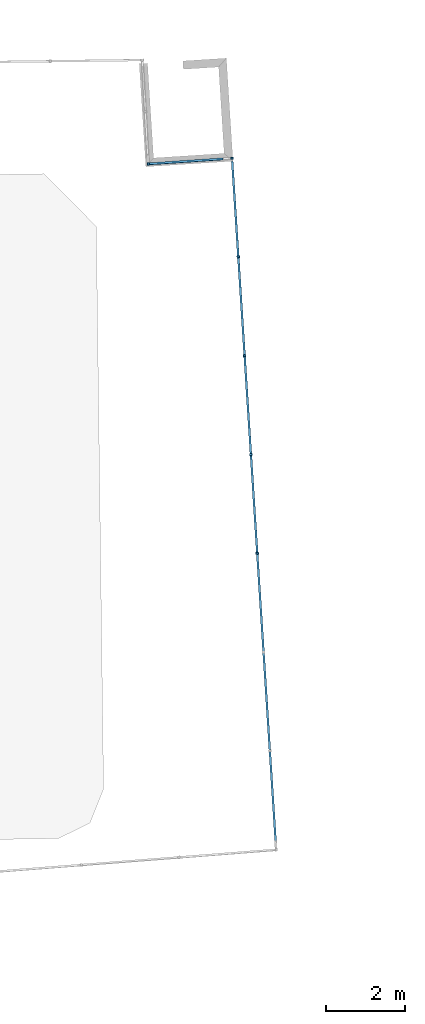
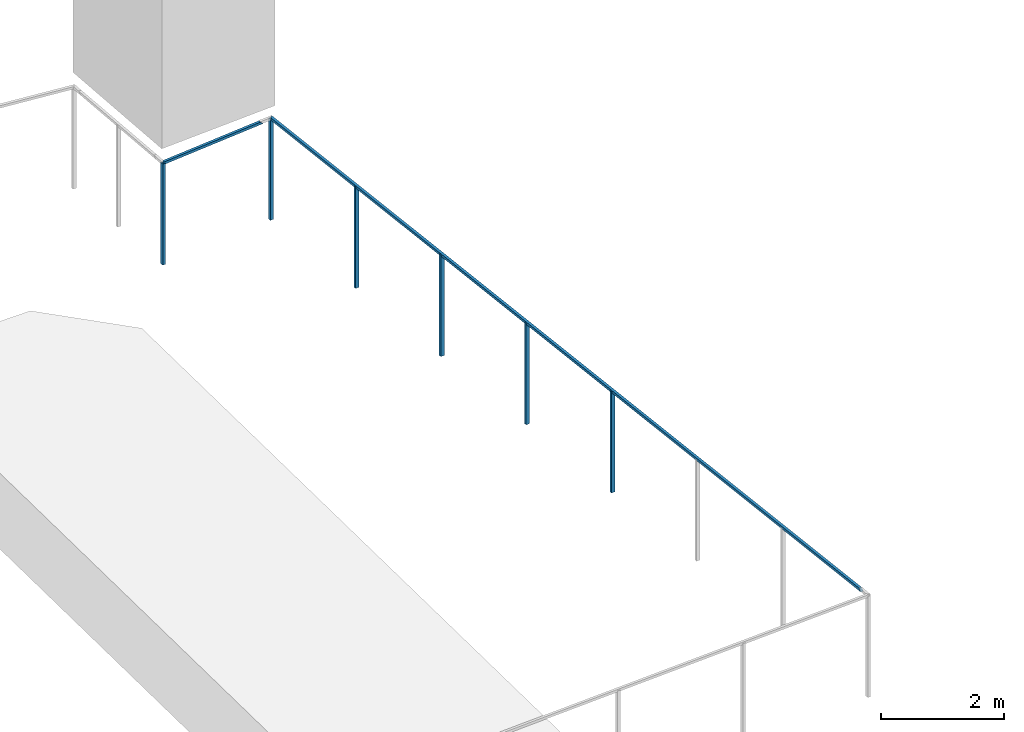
# One storey, part 75 of 91: 8 building element parts, 1 element without a shape of its own.
"""IFC2X3 building model written with IfcOpenShell, lengths in metres."""

from ifc_helpers import new_model, entity, si_unit, converted_unit, derived_unit, money_unit, direction, frame, origin_with_axes, place, context, subcontext, project, spatial, faceted_brep, material, type_object, element, aggregate, save


model = new_model("IFC2X3")

# Units and contexts
model_context = context("Model", 3, precision=1e-05, world=origin_with_axes(), true_north=direction((0.0, 1.0)))
body_context = subcontext(model_context, "Body", "Model", "MODEL_VIEW")
ifc_project = project(units=[si_unit("LENGTHUNIT", "METRE"), si_unit("AREAUNIT", "SQUARE_METRE"), si_unit("VOLUMEUNIT", "CUBIC_METRE"), converted_unit("PLANEANGLEUNIT", "DEGREE", entity("IfcPlaneAngleMeasure", 0.0174532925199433), si_unit("PLANEANGLEUNIT", "RADIAN"), dimensions=[0, 0, 0, 0, 0, 0, 0]), money_unit("EUR"), converted_unit("TIMEUNIT", "Year", entity("IfcTimeMeasure", 31557600.0), si_unit("TIMEUNIT", "SECOND"), dimensions=[0, 0, 1, 0, 0, 0, 0]), si_unit("MASSUNIT", "GRAM", prefix="KILO"), si_unit("THERMODYNAMICTEMPERATUREUNIT", "DEGREE_CELSIUS"), si_unit("LUMINOUSINTENSITYUNIT", "LUMEN"), si_unit("ENERGYUNIT", "JOULE", prefix="MEGA"), derived_unit("THERMALCONDUCTANCEUNIT", [(si_unit("POWERUNIT", "WATT"), 1), (si_unit("LENGTHUNIT", "METRE"), -1), (si_unit("THERMODYNAMICTEMPERATUREUNIT", "KELVIN"), -1)]), derived_unit("SPECIFICHEATCAPACITYUNIT", [(si_unit("ENERGYUNIT", "JOULE"), 1), (si_unit("MASSUNIT", "GRAM", prefix="KILO"), -1), (si_unit("THERMODYNAMICTEMPERATUREUNIT", "KELVIN"), -1)]), derived_unit("MASSDENSITYUNIT", [(si_unit("MASSUNIT", "GRAM", prefix="KILO"), 1), (si_unit("VOLUMEUNIT", "CUBIC_METRE"), -1)])], contexts=[model_context])

# Site, building, storey
site_placement = place(None, origin_with_axes())
site = spatial("IfcSite", under=ifc_project, at=site_placement, Name="Site", CompositionType="ELEMENT")
building_placement = place(site_placement, origin_with_axes())
building = spatial("IfcBuilding", under=site, at=building_placement, Name="Bâtiment", CompositionType="ELEMENT")
storey_placement = place(building_placement, origin_with_axes())
storey = spatial("IfcBuildingStorey", under=building, at=storey_placement, Name="RDC", CompositionType="ELEMENT", Elevation=0.0)

# Proxy, building element parts
building_element_proxy_type = type_object("IfcBuildingElementProxyType", Name="Type de garde-corps", PredefinedType="NOTDEFINED")
proxy_placement = place(storey_placement, frame((79.63337255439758, 3.614023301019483, -2.37161404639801), z_axis=(0.0, 0.0, 1.0), x_axis=(1.0, 0.0, 0.0)))
proxy = element("IfcBuildingElementProxy", 1, at=proxy_placement, inside=storey, type_object=building_element_proxy_type, Name="RAMPE-004")
ifc_material = material(Name="Acier Galva")
building_element_part_1_placement = place(proxy_placement, origin_with_axes())
building_element_part_1 = element("IfcBuildingElementPart", 2, at=building_element_part_1_placement, material=ifc_material, Name="Acier Galva", context=body_context, shape_type="Brep", body=[
    faceted_brep([(22.31019136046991, 1.18038404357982, 0.09343169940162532), (22.24432690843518, 1.176156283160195, 0.09246910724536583), (22.24432626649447, 1.17616630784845, 2.094185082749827), (22.31337902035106, 1.130485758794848, 0.09447525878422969), (22.24751456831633, 1.126257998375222, 0.0935126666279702), (22.24751392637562, 1.126268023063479, 2.094185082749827), (22.31019200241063, 1.180374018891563, 2.094185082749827), (22.31337966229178, 1.130475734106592, 2.094185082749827)], [[[0, 1, 2]], [[0, 3, 4, 1]], [[1, 4, 5, 2]], [[0, 2, 6]], [[3, 0, 6, 7]], [[4, 3, 7]], [[4, 7, 5]], [[6, 2, 5, 7]]]),
])
building_element_part_2_placement = place(proxy_placement, origin_with_axes())
building_element_part_2 = element("IfcBuildingElementPart", 3, at=building_element_part_2_placement, material=ifc_material, Name="Acier Galva", context=body_context, shape_type="Brep", body=[
    faceted_brep([(20.14576103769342, 1.042390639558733, 0.03103039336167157), (20.15020078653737, 0.9765401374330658, 0.03143081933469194), (20.15020368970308, 0.9765403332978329, 2.031177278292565), (20.19564748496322, 1.045758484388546, 0.03175706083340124), (20.20008723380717, 0.9799079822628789, 0.03215748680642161), (20.20009013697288, 0.979908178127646, 2.031177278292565), (20.14575813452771, 1.042390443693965, 2.031177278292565), (20.19564458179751, 1.045758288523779, 2.031177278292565)], [[[0, 1, 2]], [[0, 3, 4, 1]], [[1, 4, 5, 2]], [[0, 2, 6]], [[3, 0, 6, 7]], [[4, 3, 7]], [[4, 7, 5]], [[6, 2, 5, 7]]]),
])
building_element_part_3_placement = place(proxy_placement, origin_with_axes())
building_element_part_3 = element("IfcBuildingElementPart", 4, at=building_element_part_3_placement, material=ifc_material, Name="Acier Galva", context=body_context, shape_type="Brep", body=[
    faceted_brep([(23.4017373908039, -16.03170151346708, 2.840056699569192), (23.40492505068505, -16.08159979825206, 2.792105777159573), (22.30273777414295, 1.17946466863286, 2.069190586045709), (23.35183910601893, -16.03488917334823, 2.840056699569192), (23.35502676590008, -16.08478745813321, 2.792105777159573), (22.25608264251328, 1.126201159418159, 2.069190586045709), (22.30162328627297, 1.180440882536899, 2.119179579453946), (22.25496815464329, 1.127177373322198, 2.119179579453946)], [[[0, 1, 2]], [[0, 3, 4, 1]], [[1, 5, 2]], [[0, 2, 6]], [[3, 0, 6]], [[4, 3, 7]], [[1, 4, 5]], [[6, 2, 5, 7]], [[3, 6, 7]], [[4, 7, 5]]]),
])
building_element_part_4_placement = place(proxy_placement, origin_with_axes())
building_element_part_4 = element("IfcBuildingElementPart", 5, at=building_element_part_4_placement, material=ifc_material, Name="Acier Galva", context=body_context, shape_type="Brep", body=[
    faceted_brep([(22.94578043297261, -8.76885949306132, 0.5104344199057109), (22.87991469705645, -8.773067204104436, 0.5104344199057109), (22.87991469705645, -8.773067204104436, 2.510434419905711), (22.94578043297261, -8.76885949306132, 2.510434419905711), (22.94896809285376, -8.818757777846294, 0.512527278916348), (22.8831023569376, -8.822965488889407, 0.512527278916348), (22.8831023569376, -8.822965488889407, 2.512527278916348), (22.94896809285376, -8.818757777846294, 2.512527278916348)], [[[0, 1, 2, 3]], [[0, 4, 5, 1]], [[1, 5, 6, 2]], [[3, 2, 6, 7]], [[4, 0, 3, 7]], [[5, 4, 7, 6]]]),
])
building_element_part_5_placement = place(proxy_placement, origin_with_axes())
building_element_part_5 = element("IfcBuildingElementPart", 6, at=building_element_part_5_placement, material=ifc_material, Name="Acier Galva", context=body_context, shape_type="Brep", body=[
    faceted_brep([(22.78688332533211, -6.2815511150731, 0.4061104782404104), (22.72101758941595, -6.285758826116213, 0.4061104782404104), (22.72101758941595, -6.285758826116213, 2.40611047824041), (22.78688332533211, -6.2815511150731, 2.40611047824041), (22.79007098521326, -6.331449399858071, 0.4082033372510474), (22.7242052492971, -6.335657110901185, 0.4082033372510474), (22.7242052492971, -6.335657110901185, 2.408203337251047), (22.79007098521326, -6.331449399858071, 2.408203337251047)], [[[0, 1, 2, 3]], [[0, 4, 5, 1]], [[1, 5, 6, 2]], [[3, 2, 6, 7]], [[4, 0, 3, 7]], [[5, 4, 7, 6]]]),
])
building_element_part_6_placement = place(proxy_placement, origin_with_axes())
building_element_part_6 = element("IfcBuildingElementPart", 7, at=building_element_part_6_placement, material=ifc_material, Name="Acier Galva", context=body_context, shape_type="Brep", body=[
    faceted_brep([(22.62798621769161, -3.794242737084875, 0.3017865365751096), (22.56212048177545, -3.798450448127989, 0.3017865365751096), (22.56212048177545, -3.798450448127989, 2.30178653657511), (22.62798621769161, -3.794242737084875, 2.30178653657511), (22.63117387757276, -3.844141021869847, 0.3038793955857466), (22.5653081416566, -3.84834873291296, 0.3038793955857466), (22.5653081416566, -3.84834873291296, 2.303879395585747), (22.63117387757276, -3.844141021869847, 2.303879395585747)], [[[0, 1, 2, 3]], [[0, 4, 5, 1]], [[1, 5, 6, 2]], [[3, 2, 6, 7]], [[4, 0, 3, 7]], [[5, 4, 7, 6]]]),
])
building_element_part_7_placement = place(proxy_placement, origin_with_axes())
building_element_part_7 = element("IfcBuildingElementPart", 8, at=building_element_part_7_placement, material=ifc_material, Name="Acier Galva", context=body_context, shape_type="Brep", body=[
    faceted_brep([(22.46908911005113, -1.306934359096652, 0.1974625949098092), (22.40322337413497, -1.311142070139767, 0.1974625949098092), (22.40322337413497, -1.311142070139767, 2.197462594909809), (22.46908911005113, -1.306934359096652, 2.197462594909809), (22.47227676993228, -1.356832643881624, 0.1995554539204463), (22.40641103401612, -1.361040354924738, 0.1995554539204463), (22.40641103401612, -1.361040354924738, 2.199555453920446), (22.47227676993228, -1.356832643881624, 2.199555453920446)], [[[0, 1, 2, 3]], [[0, 4, 5, 1]], [[1, 5, 6, 2]], [[3, 2, 6, 7]], [[4, 0, 3, 7]], [[5, 4, 7, 6]]]),
])
building_element_part_8_placement = place(proxy_placement, origin_with_axes())
building_element_part_8 = element("IfcBuildingElementPart", 9, at=building_element_part_8_placement, material=ifc_material, Name="Acier Galva", context=body_context, shape_type="Brep", body=[
    faceted_brep([(22.05268002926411, 1.163108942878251, 2.111205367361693), (22.10256647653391, 1.166476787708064, 2.062642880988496), (20.19678710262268, 1.037437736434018, 2.006179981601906), (22.05604787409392, 1.113222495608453, 2.111205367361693), (22.10593432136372, 1.116590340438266, 2.062642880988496), (20.14983806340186, 0.9841760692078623, 2.006179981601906), (20.19601020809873, 1.038122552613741, 2.056174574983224), (20.14906116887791, 0.9848608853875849, 2.056174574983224)], [[[0, 1, 2]], [[0, 3, 4, 1]], [[1, 5, 2]], [[0, 2, 6]], [[3, 0, 6]], [[4, 3, 7]], [[1, 4, 5]], [[6, 2, 5, 7]], [[3, 6, 7]], [[4, 7, 5]]]),
])
aggregate(proxy, [building_element_part_1, building_element_part_2, building_element_part_3, building_element_part_4, building_element_part_5, building_element_part_6, building_element_part_7, building_element_part_8])

save(model, "model.ifc")
